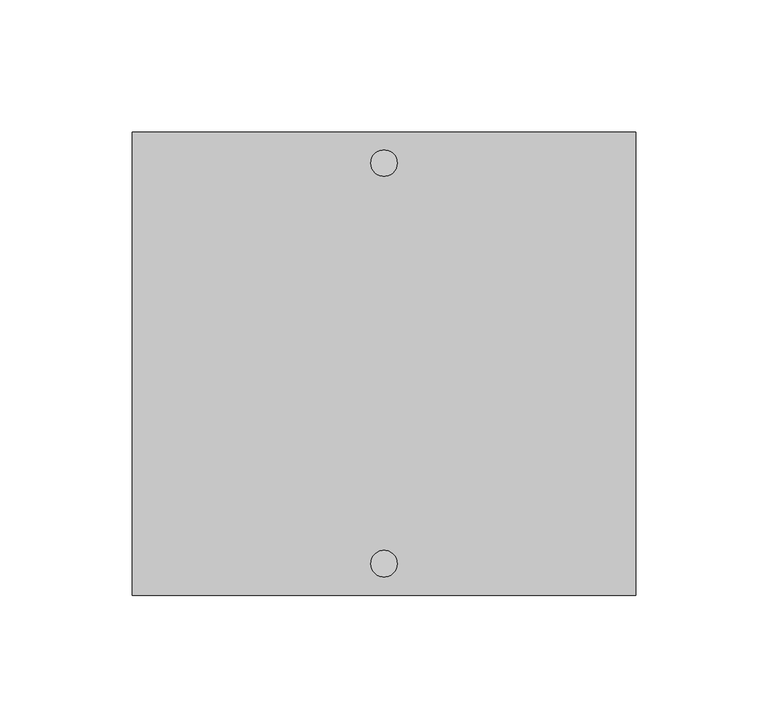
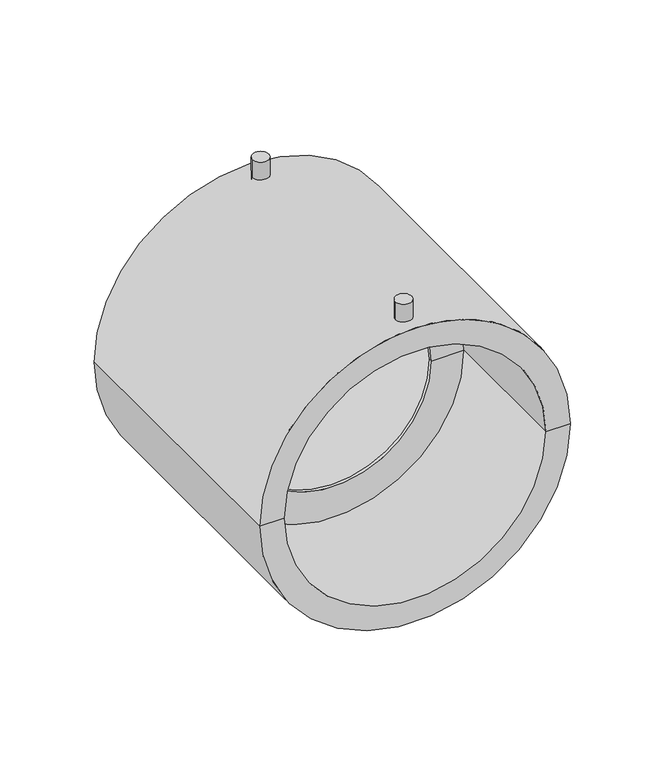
"""IFC4 building model written with IfcOpenShell, lengths in millimetres: pipe fitting geometry, NIRON RED electrico manguito : Estándar."""

import ifcopenshell
import ifcopenshell.guid

model = None  # the IFC model being written
_history = None  # IfcOwnerHistory: only IFC2X3 demands one
_inside = {}  # id of a spatial element -> (the spatial element, [elements in it])
_under = {}  # id of a project, library or spatial element -> (it, [spatial elements below it])
_declared = {}  # id of a project -> (the project, [libraries it declares])
_typed = {}  # id of a type object -> (the type object, [elements of that type])
_made_of = {}  # id of a material, layer set ... -> (it, [elements and type objects made of it])


def new_model(schema):
    """Start an empty IFC model of exactly this schema.

    Asked for "IFC4X3", IfcOpenShell would pick the latest addendum, in which some entities
    have other attributes; the version numbers below select the first issue.
    IFC2X3 requires an IfcOwnerHistory on every rooted entity: one is made here for all.
    """
    global model, _history
    if schema == "IFC4X3":
        model = ifcopenshell.file(schema_version=(4, 3, 0, 0))
    else:
        model = ifcopenshell.file(schema=schema)
    _inside.clear()
    _under.clear()
    _declared.clear()
    _typed.clear()
    _made_of.clear()
    _history = None
    if model.schema == "IFC2X3":
        org = make("IfcOrganization", Name="unknown")
        user = make(
            "IfcPersonAndOrganization",
            ThePerson=make("IfcPerson", FamilyName="unknown"),
            TheOrganization=org,
        )
        app = make(
            "IfcApplication",
            ApplicationDeveloper=org,
            Version="unknown",
            ApplicationFullName="unknown",
            ApplicationIdentifier="unknown",
        )
        _history = make(
            "IfcOwnerHistory",
            OwningUser=user,
            OwningApplication=app,
            ChangeAction="ADDED",
            CreationDate=0,
        )
    return model


def make(cls, **values):
    """One entity of the class cls with the attributes given. An attribute that is None is left unset."""
    return model.create_entity(
        cls, **{name: value for name, value in values.items() if value is not None}
    )


def rooted(cls, **values):
    """An entity with a GlobalId (a new one), such as an element, a storey or a relation."""
    return make(cls, GlobalId=ifcopenshell.guid.new(), OwnerHistory=_history, **values)


def si_unit(unit_type, name, prefix=None):
    """IfcSIUnit, for example si_unit("LENGTHUNIT", "METRE", prefix="MILLI")."""
    return make("IfcSIUnit", UnitType=unit_type, Prefix=prefix, Name=name)


def assignment(units):
    """IfcUnitAssignment: the units of a project."""
    return None if units is None else make("IfcUnitAssignment", Units=units)


def point(xyz):
    """IfcCartesianPoint."""
    return None if xyz is None else make("IfcCartesianPoint", Coordinates=xyz)


def direction(xyz):
    """IfcDirection."""
    return None if xyz is None else make("IfcDirection", DirectionRatios=xyz)


def frame(location, z_axis=None, x_axis=None):
    """IfcAxis2Placement3D, a coordinate frame: its origin and axes. An axis left out is left unset."""
    return make(
        "IfcAxis2Placement3D",
        Location=point(location),
        Axis=direction(z_axis),
        RefDirection=direction(x_axis),
    )


def frame_2d(location, x_axis=None):
    """IfcAxis2Placement2D, a coordinate frame in the plane: its origin and x axis."""
    return make(
        "IfcAxis2Placement2D", Location=point(location), RefDirection=direction(x_axis)
    )


def origin():
    """The frame at (0, 0, 0) with its axes left unset."""
    return frame((0.0, 0.0, 0.0))


def place(relative_to, where):
    """IfcLocalPlacement: puts the frame where relative to a parent placement (None: the world)."""
    return make(
        "IfcLocalPlacement", PlacementRelTo=relative_to, RelativePlacement=where
    )


def context(
    kind, dimensions, precision=None, world=None, true_north=None, identifier=None
):
    """IfcGeometricRepresentationContext, for example the 3D "Model" context."""
    return make(
        "IfcGeometricRepresentationContext",
        ContextIdentifier=identifier,
        ContextType=kind,
        CoordinateSpaceDimension=dimensions,
        Precision=precision,
        WorldCoordinateSystem=world,
        TrueNorth=true_north,
    )


def project(units=None, contexts=None):
    """IfcProject with its units and contexts."""
    return rooted(
        "IfcProject",
        Name="project",
        RepresentationContexts=contexts,
        UnitsInContext=assignment(units),
    )


def spatial(cls, under=None, at=None, **own):
    """A site, building, storey or space (cls), placed at a placement, below another one or the project."""
    s = rooted(cls, ObjectPlacement=at, **own)
    if under is not None:
        _under.setdefault(under.id(), (under, []))[1].append(s)
    return s


def polyline(points):
    """IfcPolyline through the points."""
    return make("IfcPolyline", Points=[point(p) for p in points])


def circle_curve(where, radius):
    """IfcCircle in the frame where."""
    return make("IfcCircle", Position=where, Radius=radius)


def trimmed(basis, trim1, trim2, sense, master):
    """IfcTrimmedCurve: the piece of a basis curve between two trims."""
    return make(
        "IfcTrimmedCurve",
        BasisCurve=basis,
        Trim1=trim1,
        Trim2=trim2,
        SenseAgreement=sense,
        MasterRepresentation=master,
    )


def segment(curve, same_sense, transition):
    """IfcCompositeCurveSegment."""
    return make(
        "IfcCompositeCurveSegment",
        Transition=transition,
        SameSense=same_sense,
        ParentCurve=curve,
    )


def composite_curve(segments, self_intersect=None):
    """IfcCompositeCurve: segments joined end to end."""
    return make("IfcCompositeCurve", Segments=segments, SelfIntersect=self_intersect)


def outline(outer, holes=None, kind="AREA"):
    """IfcArbitraryClosedProfileDef: a profile drawn as a closed curve; with holes, ...WithVoids."""
    if holes is None:
        return make("IfcArbitraryClosedProfileDef", ProfileType=kind, OuterCurve=outer)
    return make(
        "IfcArbitraryProfileDefWithVoids",
        ProfileType=kind,
        OuterCurve=outer,
        InnerCurves=holes,
    )


def extrude(swept, where, along, depth):
    """IfcExtrudedAreaSolid: the profile swept, set in the frame where, extruded along a direction by depth."""
    return make(
        "IfcExtrudedAreaSolid",
        SweptArea=swept,
        Position=where,
        ExtrudedDirection=direction(along),
        Depth=depth,
    )


def shape(context_of_items, identifier, shape_type, items):
    """IfcShapeRepresentation: the items that make up one representation, for example the "Body"."""
    return make(
        "IfcShapeRepresentation",
        ContextOfItems=context_of_items,
        RepresentationIdentifier=identifier,
        RepresentationType=shape_type,
        Items=items,
    )


def source(mapping_origin, context_of_items, identifier, shape_type, items):
    """IfcRepresentationMap: a shape defined once, which mapped items show again and again."""
    return make(
        "IfcRepresentationMap",
        MappingOrigin=mapping_origin,
        MappedRepresentation=shape(context_of_items, identifier, shape_type, items),
    )


def transform(
    local_origin,
    x_axis=None,
    y_axis=None,
    z_axis=None,
    scale=None,
    scale2=None,
    scale3=None,
    uniform=True,
):
    """IfcCartesianTransformationOperator3D, or its non-uniform kind. x_axis, y_axis, z_axis: its Axis1, 2, 3."""
    if uniform:
        return make(
            "IfcCartesianTransformationOperator3D",
            Axis1=direction(x_axis),
            Axis2=direction(y_axis),
            LocalOrigin=point(local_origin),
            Scale=scale,
            Axis3=direction(z_axis),
        )
    return make(
        "IfcCartesianTransformationOperator3DnonUniform",
        Axis1=direction(x_axis),
        Axis2=direction(y_axis),
        LocalOrigin=point(local_origin),
        Scale=scale,
        Axis3=direction(z_axis),
        Scale2=scale2,
        Scale3=scale3,
    )


def mapped(mapping_source, mapping_target):
    """IfcMappedItem: shows the shape of a source again, moved by a transform."""
    return make(
        "IfcMappedItem", MappingSource=mapping_source, MappingTarget=mapping_target
    )


def made_of(thing, what):
    """Note that an element or type object is made of a material, layer set ...; save() writes the relation."""
    if what is not None:
        _made_of.setdefault(what.id(), (what, []))[1].append(thing)
    return thing


def element(
    cls,
    number,
    at=None,
    inside=None,
    cuts=None,
    type_object=None,
    material=None,
    context=None,
    identifier="Body",
    shape_type=None,
    held_by="IfcProductDefinitionShape",
    body=None,
    shapes=None,
    **own,
):
    """One element of the class cls, such as IfcWall. Its Tag is "e" and its number.

    at: its placement. inside: the storey or other place that contains it. cuts: it is an
    opening in that element (IfcRelVoidsElement). A single representation is given by context,
    identifier, shape_type and body (its items); several are given by shapes. held_by: the class
    of the entity that holds the representations. save() writes the other relations.
    """
    e = rooted(cls, Tag="e%d" % number, ObjectPlacement=at, **own)
    if body is not None:
        shapes = [shape(context, identifier, shape_type, body)]
    if shapes is not None:
        e.Representation = make(held_by, Representations=shapes)
    if inside is not None:
        _inside.setdefault(inside.id(), (inside, []))[1].append(e)
    if cuts is not None:
        rooted(
            "IfcRelVoidsElement", RelatingBuildingElement=cuts, RelatedOpeningElement=e
        )
    if type_object is not None:
        _typed.setdefault(type_object.id(), (type_object, []))[1].append(e)
    return made_of(e, material)


def aggregate(whole, parts):
    """IfcRelAggregates: a whole, such as a stair, and the parts it consists of."""
    return rooted("IfcRelAggregates", RelatingObject=whole, RelatedObjects=parts)


def save(model, path):
    """Write the relations noted so far, then the file.

    IfcRelAggregates (storeys below a building ...), IfcRelContainedInSpatialStructure (elements
    in a storey), IfcRelDefinesByType, IfcRelAssociatesMaterial and IfcRelDeclares: one each for
    every whole, place, type object, material and project.
    """
    for whole, parts in _under.values():
        aggregate(whole, parts)
    for where, things in _inside.values():
        rooted(
            "IfcRelContainedInSpatialStructure",
            RelatedElements=things,
            RelatingStructure=where,
        )
    for kind, things in _typed.values():
        rooted("IfcRelDefinesByType", RelatedObjects=things, RelatingType=kind)
    for what, things in _made_of.values():
        rooted("IfcRelAssociatesMaterial", RelatedObjects=things, RelatingMaterial=what)
    for by, libraries in _declared.values():
        rooted("IfcRelDeclares", RelatingContext=by, RelatedDefinitions=libraries)
    model.write(path)


def plane_surface(at):
    """IfcPlane: the flat surface through the origin of the frame at, square to its z axis."""
    return make("IfcPlane", Position=at)


def cylinder_surface(at, radius):
    """IfcCylindricalSurface: all points at the distance radius from the z axis of the frame at."""
    return make("IfcCylindricalSurface", Position=at, Radius=radius)


def revolved_surface(curve, axis_point, axis_direction):
    """IfcSurfaceOfRevolution: the curve turned about the line through axis_point along axis_direction."""
    return make(
        "IfcSurfaceOfRevolution",
        SweptCurve=make("IfcArbitraryOpenProfileDef", ProfileType="CURVE", Curve=curve),
        AxisPosition=make("IfcAxis1Placement", Location=point(axis_point), Axis=direction(axis_direction)),
    )


def advanced_brep(points, edges, surfaces, faces):
    """IfcAdvancedBrep: a solid bounded by faces that lie on surfaces and meet in shared edges.

    An edge is (start, end): straight between two places in points (the first is 0);
    or (start, end, curve); or (start, end, curve, False) where it runs against its curve.
    A face is (place in surfaces, loops), or (place, loops, False) where it looks against
    its surface's normal. A loop lists edges by number (the first is 1), with a minus sign
    where the edge is run from its end to its start. The first loop is the outer one.
    """
    corners = [point(p) for p in points]
    vertices = [make("IfcVertexPoint", VertexGeometry=c) for c in corners]
    made = []
    for start, end, *more in edges:
        made.append(
            make(
                "IfcEdgeCurve",
                EdgeStart=vertices[start],
                EdgeEnd=vertices[end],
                EdgeGeometry=more[0] if more else make("IfcPolyline", Points=[corners[start], corners[end]]),
                SameSense=more[1] if len(more) > 1 else True,
            )
        )
    hull = []
    for where, loops, *sense in faces:
        bounds = []
        for j, loop in enumerate(loops):
            ring = [make("IfcOrientedEdge", EdgeElement=made[abs(k) - 1], Orientation=k > 0) for k in loop]
            bounds.append(
                make(
                    "IfcFaceOuterBound" if j == 0 else "IfcFaceBound",
                    Bound=make("IfcEdgeLoop", EdgeList=ring),
                    Orientation=True,
                )
            )
        hull.append(make("IfcAdvancedFace", Bounds=bounds, FaceSurface=surfaces[where], SameSense=sense[0] if sense else True))
    return make("IfcAdvancedBrep", Outer=make("IfcClosedShell", CfsFaces=hull))


def pipe_fitting_b8635a5e(model_context):
    return source(origin(), model_context, "Body", "SolidModel", [
        advanced_brep(
        [(95.0, 175.0, 0.0), (-95.0, 175.0, 0.0), (-80.0, 175.0, 0.0), (80.0, 175.0, 0.0), (95.0, 0.0, 0.0), (-95.0, 0.0, 0.0), (80.0, 0.0, 0.0), (-80.0, 0.0, 0.0), (80.0, 86.5, 0.0), (-80.0, 86.5, 0.0), (60.0, 86.5, 0.0), (-60.0, 86.5, 0.0), (60.0, 88.5, 0.0), (-60.0, 88.5, 0.0), (80.0, 88.5, 0.0), (-80.0, 88.5, 0.0)],
        [
            (0, 1, circle_curve(frame((0.0, 175.0, 0.0), z_axis=(0.0, 1.0, 0.0), x_axis=(-1.0, 0.0, 0.0)), 95.0)),
            (1, 2),
            (2, 3, circle_curve(frame((0.0, 175.0, 0.0), z_axis=(0.0, -1.0, 0.0), x_axis=(-1.0, 0.0, 0.0)), 80.0)),
            (3, 0),
            (1, 0, circle_curve(frame((0.0, 175.0, 0.0), z_axis=(0.0, 1.0, 0.0), x_axis=(-1.0, 0.0, 0.0)), 95.0)),
            (3, 2, circle_curve(frame((0.0, 175.0, 0.0), z_axis=(0.0, -1.0, 0.0), x_axis=(-1.0, 0.0, 0.0)), 80.0)),
            (4, 5, circle_curve(frame((0.0, 0.0, 0.0), z_axis=(0.0, 1.0, 0.0), x_axis=(-1.0, 0.0, 0.0)), 95.0)),
            (5, 1),
            (0, 4),
            (5, 4, circle_curve(frame((0.0, 0.0, 0.0), z_axis=(0.0, 1.0, 0.0), x_axis=(-1.0, 0.0, 0.0)), 95.0)),
            (6, 7, circle_curve(frame((0.0, 0.0, 0.0), z_axis=(0.0, 1.0, 0.0), x_axis=(-1.0, 0.0, 0.0)), 80.0)),
            (7, 5),
            (4, 6),
            (7, 6, circle_curve(frame((0.0, 0.0, 0.0), z_axis=(0.0, 1.0, 0.0), x_axis=(-1.0, 0.0, 0.0)), 80.0)),
            (8, 9, circle_curve(frame((0.0, 86.5, 0.0), z_axis=(0.0, 1.0, 0.0), x_axis=(-1.0, 0.0, 0.0)), 80.0)),
            (9, 7),
            (6, 8),
            (9, 8, circle_curve(frame((0.0, 86.5, 0.0), z_axis=(0.0, 1.0, 0.0), x_axis=(-1.0, 0.0, 0.0)), 80.0)),
            (10, 11, circle_curve(frame((0.0, 86.5, 0.0), z_axis=(0.0, 1.0, 0.0), x_axis=(-1.0, 0.0, 0.0)), 60.0)),
            (11, 9),
            (8, 10),
            (11, 10, circle_curve(frame((0.0, 86.5, 0.0), z_axis=(0.0, 1.0, 0.0), x_axis=(-1.0, 0.0, 0.0)), 60.0)),
            (12, 13, circle_curve(frame((0.0, 88.5, 0.0), z_axis=(0.0, 1.0, 0.0), x_axis=(-1.0, 0.0, 0.0)), 60.0)),
            (13, 11),
            (10, 12),
            (13, 12, circle_curve(frame((0.0, 88.5, 0.0), z_axis=(0.0, 1.0, 0.0), x_axis=(-1.0, 0.0, 0.0)), 60.0)),
            (14, 15, circle_curve(frame((0.0, 88.5, 0.0), z_axis=(0.0, 1.0, 0.0), x_axis=(-1.0, 0.0, 0.0)), 80.0)),
            (15, 13),
            (12, 14),
            (15, 14, circle_curve(frame((0.0, 88.5, 0.0), z_axis=(0.0, 1.0, 0.0), x_axis=(-1.0, 0.0, 0.0)), 80.0)),
            (2, 15),
            (14, 3),
        ],
        [
            plane_surface(frame((0.0, 175.0, 0.0), z_axis=(0.0, 1.0, 0.0), x_axis=(-1.0, 0.0, 0.0))),
            cylinder_surface(frame((0.0, 200.0, 0.0), z_axis=(0.0, -1.0, 0.0), x_axis=(-1.0, 0.0, 0.0)), 95.0),
            plane_surface(frame((0.0, 0.0, 0.0), z_axis=(0.0, -1.0, 0.0), x_axis=(-1.0, 0.0, 0.0))),
            revolved_surface(polyline([(-80.0, 0.0, 0.0), (-80.0, 86.5, 0.0)]), (0.0, 200.0, 0.0), (0.0, -1.0, 0.0)),
            plane_surface(frame((0.0, 86.5, 0.0), z_axis=(0.0, -1.0, 0.0), x_axis=(-1.0, 0.0, 0.0))),
            revolved_surface(polyline([(-60.0, 86.5, 0.0), (-60.0, 88.5, 0.0)]), (0.0, 200.0, 0.0), (0.0, -1.0, 0.0)),
            plane_surface(frame((0.0, 88.5, 0.0), z_axis=(0.0, 1.0, 0.0), x_axis=(-1.0, 0.0, 0.0))),
            revolved_surface(polyline([(-80.0, 88.5, 0.0), (-80.0, 175.0, 0.0)]), (0.0, 200.0, 0.0), (0.0, -1.0, 0.0)),
        ],
        [
            (0, [[1, 2, 3, 4]]),
            (0, [[5, -4, 6, -2]]),
            (1, [[7, 8, -1, 9]]),
            (1, [[10, -9, -5, -8]]),
            (2, [[11, 12, -7, 13]]),
            (2, [[14, -13, -10, -12]]),
            (3, [[15, 16, -11, 17]]),
            (3, [[18, -17, -14, -16]]),
            (4, [[19, 20, -15, 21]]),
            (4, [[22, -21, -18, -20]]),
            (5, [[23, 24, -19, 25]]),
            (5, [[26, -25, -22, -24]]),
            (6, [[27, 28, -23, 29]]),
            (6, [[30, -29, -26, -28]]),
            (7, [[-3, 31, -27, 32]]),
            (7, [[-6, -32, -30, -31]]),
        ],
    ),
        extrude(outline(composite_curve([segment(trimmed(circle_curve(frame_2d((0.0, 12.0)), 5.0), [point((-5.0, 12.0))], [point((5.0, 12.0))], False, "CARTESIAN"), True, "CONTINUOUS"), segment(trimmed(circle_curve(frame_2d((0.0, 12.0)), 5.0), [point((5.0, 12.0))], [point((-5.0, 12.0))], False, "CARTESIAN"), True, "CONTINUOUS")], self_intersect=False)), frame((0.0, 0.0, 92.0), z_axis=(0.0, 0.0, 1.0), x_axis=(1.0, 0.0, 0.0)), (0.0, 0.0, 1.0), 14.5),
        extrude(outline(composite_curve([segment(trimmed(circle_curve(frame_2d((0.0, 163.3742842)), 5.0), [point((-5.0, 163.3742842))], [point((5.0, 163.3742842))], False, "CARTESIAN"), True, "CONTINUOUS"), segment(trimmed(circle_curve(frame_2d((0.0, 163.3742842)), 5.0), [point((5.0, 163.3742842))], [point((-5.0, 163.3742842))], False, "CARTESIAN"), True, "CONTINUOUS")], self_intersect=False)), frame((0.0, 0.0, 92.0), z_axis=(0.0, 0.0, 1.0), x_axis=(1.0, 0.0, 0.0)), (0.0, 0.0, 1.0), 14.5),
    ])


if __name__ == "__main__":
    model = new_model("IFC4")
    model_context = context("Model", 3, world=origin())
    ifc_project = project(units=[si_unit("LENGTHUNIT", "METRE", prefix="MILLI")], contexts=[model_context])
    site = spatial("IfcSite", under=ifc_project)
    building = spatial("IfcBuilding", under=site)
    placement = place(None, origin())
    pipe_fitting_shape = pipe_fitting_b8635a5e(model_context)
    element("IfcPipeFitting", 1, ObjectType="NIRON RED electrico manguito : Estándar", at=placement, inside=building, context=model_context, shape_type="MappedRepresentation", body=[
        mapped(pipe_fitting_shape, transform((0.0, 0.0, 0.0), x_axis=(1.0, 0.0, 0.0), y_axis=(0.0, 1.0, 0.0), z_axis=(0.0, 0.0, 1.0))),
    ])
    save(model, "model.ifc")
